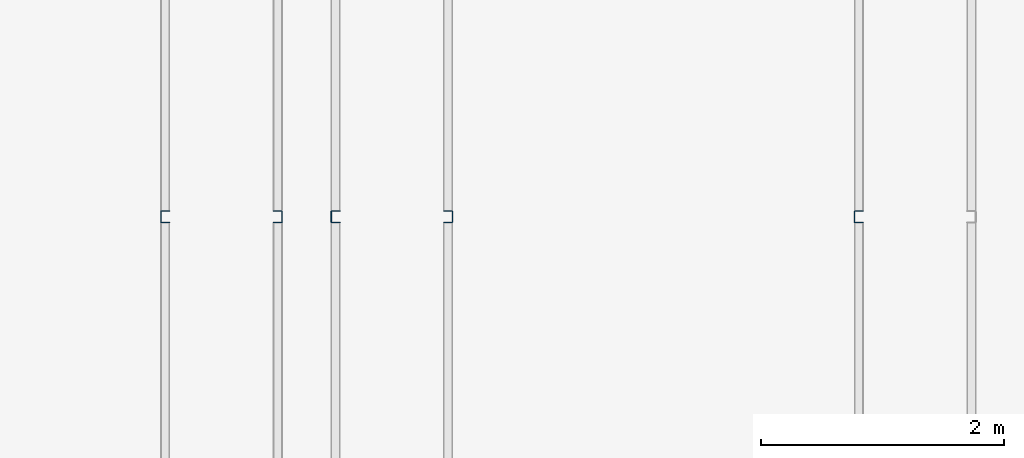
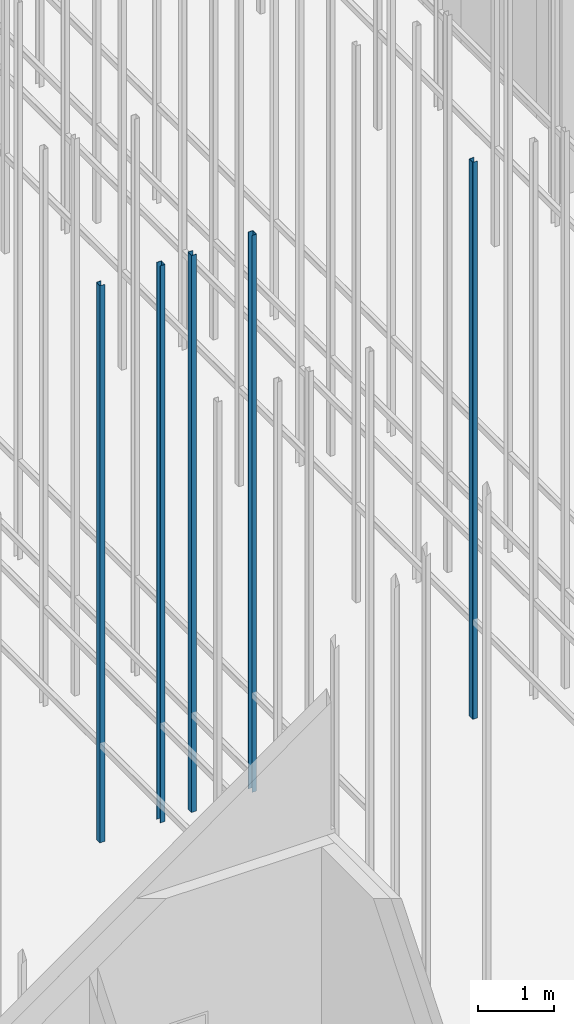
# One storey, part 12 of 302: 5 columns.
"""IFC2X3 building model written with IfcOpenShell, lengths in metres."""

from ifc_helpers import new_model, entity, si_unit, converted_unit, derived_unit, direction, frame, frame_2d, origin, place, context, subcontext, project, spatial, polyline, circle_curve, parameter, trimmed, segment, composite_curve, outline, extrude, source, transform, mapped, material, type_object, type_shapes, element, save


model = new_model("IFC2X3")

# Units and contexts
model_context = context("Model", 3, precision=1e-05, world=origin(), true_north=direction((6.12303176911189e-17, 1.0)))
body_context = subcontext(model_context, "Body", "Model", "MODEL_VIEW")
ifc_project = project(units=[si_unit("LENGTHUNIT", "METRE"), si_unit("AREAUNIT", "SQUARE_METRE"), si_unit("VOLUMEUNIT", "CUBIC_METRE"), converted_unit("PLANEANGLEUNIT", "DEGREE", entity("IfcRatioMeasure", 0.0174532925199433), si_unit("PLANEANGLEUNIT", "RADIAN"), dimensions=[0, 0, 0, 0, 0, 0, 0]), si_unit("MASSUNIT", "GRAM", prefix="KILO"), derived_unit("MASSDENSITYUNIT", [(si_unit("MASSUNIT", "GRAM", prefix="KILO"), 1), (si_unit("LENGTHUNIT", "METRE"), -3)]), derived_unit("MOMENTOFINERTIAUNIT", [(si_unit("LENGTHUNIT", "METRE"), 4)]), si_unit("TIMEUNIT", "SECOND"), si_unit("FREQUENCYUNIT", "HERTZ"), si_unit("THERMODYNAMICTEMPERATUREUNIT", "DEGREE_CELSIUS"), derived_unit("THERMALTRANSMITTANCEUNIT", [(si_unit("MASSUNIT", "GRAM", prefix="KILO"), 1), (si_unit("THERMODYNAMICTEMPERATUREUNIT", "KELVIN"), -1), (si_unit("TIMEUNIT", "SECOND"), -3)]), derived_unit("VOLUMETRICFLOWRATEUNIT", [(si_unit("LENGTHUNIT", "METRE"), 3), (si_unit("TIMEUNIT", "SECOND"), -1)]), si_unit("ELECTRICCURRENTUNIT", "AMPERE"), si_unit("ELECTRICVOLTAGEUNIT", "VOLT"), si_unit("POWERUNIT", "WATT"), si_unit("FORCEUNIT", "NEWTON", prefix="KILO"), si_unit("ILLUMINANCEUNIT", "LUX"), si_unit("LUMINOUSFLUXUNIT", "LUMEN"), si_unit("LUMINOUSINTENSITYUNIT", "CANDELA"), derived_unit("USERDEFINED", [(si_unit("MASSUNIT", "GRAM", prefix="KILO"), -1), (si_unit("LENGTHUNIT", "METRE"), -2), (si_unit("TIMEUNIT", "SECOND"), 3), (si_unit("LUMINOUSFLUXUNIT", "LUMEN"), 1)]), derived_unit("LINEARVELOCITYUNIT", [(si_unit("LENGTHUNIT", "METRE"), 1), (si_unit("TIMEUNIT", "SECOND"), -1)]), si_unit("PRESSUREUNIT", "PASCAL"), derived_unit("USERDEFINED", [(si_unit("LENGTHUNIT", "METRE"), -2), (si_unit("MASSUNIT", "GRAM", prefix="KILO"), 1), (si_unit("TIMEUNIT", "SECOND"), -2)]), derived_unit("LINEARFORCEUNIT", [(si_unit("MASSUNIT", "GRAM", prefix="KILO"), 1), (si_unit("LENGTHUNIT", "METRE"), 1), (si_unit("TIMEUNIT", "SECOND"), -2), (si_unit("LENGTHUNIT", "METRE"), -1)]), derived_unit("PLANARFORCEUNIT", [(si_unit("MASSUNIT", "GRAM", prefix="KILO"), 1), (si_unit("LENGTHUNIT", "METRE"), 1), (si_unit("TIMEUNIT", "SECOND"), -2), (si_unit("LENGTHUNIT", "METRE"), -2)])], contexts=[model_context])

# Site, building, storey
site_placement = place(None, origin())
site = spatial("IfcSite", under=ifc_project, at=site_placement, Name="Default", CompositionType="ELEMENT")
building_placement = place(site_placement, origin())
building = spatial("IfcBuilding", under=site, at=building_placement, CompositionType="ELEMENT")
storey_placement = place(building_placement, frame((0.0, 0.0, -1.3)))
storey = spatial("IfcBuildingStorey", under=building, at=storey_placement, Name="00_EG", CompositionType="ELEMENT", Elevation=-1.3)

# Columns
ifc_material = material(Name="Metall - Baustahl S235")
column_type_1 = type_object("IfcColumnType", Name="Leichter Stahl Schlossschrauben Stütze:C 100", PredefinedType="COLUMN", material=ifc_material)
shared_shape_1 = source(origin(), body_context, "Body", "SweptSolid", [
    extrude(outline(composite_curve([segment(polyline([(-0.0469749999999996, -0.0499999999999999), (0.0214500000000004, -0.0499999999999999)]), True, "CONTINUOUS"), segment(trimmed(circle_curve(frame_2d((0.0214500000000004, -0.0434249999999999), x_axis=(0.0, -1.0)), 0.00657500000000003), [parameter(0.0)], [parameter(89.9999999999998)], True, "PARAMETER"), True, "CONTINUOUS"), segment(polyline([(0.0280250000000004, -0.0434249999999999), (0.0280250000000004, 0.0434250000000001)]), True, "CONTINUOUS"), segment(trimmed(circle_curve(frame_2d((0.0214500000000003, 0.0434250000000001), x_axis=(1.0, 0.0)), 0.0065750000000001), [parameter(0.0)], [parameter(89.9999999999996)], True, "PARAMETER"), True, "CONTINUOUS"), segment(polyline([(0.0214500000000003, 0.0500000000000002), (-0.0469750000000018, 0.0500000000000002)]), True, "CONTINUOUS"), segment(polyline([(-0.0469750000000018, 0.0500000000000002), (-0.0469750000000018, 0.0450000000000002)]), True, "CONTINUOUS"), segment(polyline([(-0.0469750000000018, 0.0450000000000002), (0.0214500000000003, 0.0450000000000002)]), True, "CONTINUOUS"), segment(trimmed(circle_curve(frame_2d((0.0214500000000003, 0.0434249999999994), x_axis=(0.0, 1.0)), 0.00157500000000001), [parameter(269.999999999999)], [parameter(0.0)], True, "PARAMETER"), False, "CONTINUOUS"), segment(polyline([(0.0230250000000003, 0.0434249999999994), (0.0230250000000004, -0.0434249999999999)]), True, "CONTINUOUS"), segment(trimmed(circle_curve(frame_2d((0.0214500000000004, -0.0434249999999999), x_axis=(1.0, 0.0)), 0.00157500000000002), [parameter(270.0)], [parameter(0.0)], True, "PARAMETER"), False, "CONTINUOUS"), segment(polyline([(0.0214500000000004, -0.0449999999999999), (-0.0469749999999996, -0.0449999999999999)]), True, "CONTINUOUS"), segment(polyline([(-0.0469749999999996, -0.0449999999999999), (-0.0469749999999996, -0.0499999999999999)]), True, "CONTINUOUS")], self_intersect=False)), frame((0.0499999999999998, 0.0280250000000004, -0.0300000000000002), z_axis=(0.0, 0.0, 1.0), x_axis=(0.0, -1.0, 0.0)), (0.0, 0.0, 1.0), 9.0),
])
type_shapes(column_type_1, [shared_shape_1])
for number, where, z_axis, x_axis in (
    (1, (-190.790111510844, 30.248088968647, 1.3), (0.0, 0.0, 1.0), (0.0, -1.0, 0.0)),
    (2, (-189.390111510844, 30.248088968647, 1.3), (0.0, 0.0, 1.0), (0.0, -1.0, 0.0)),
    (3, (-185.090111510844, 30.248088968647, 1.3), (0.0, 0.0, 1.0), (0.0, -1.0, 0.0)),
):
    element("IfcColumn", number, at=place(storey_placement, frame(where, z_axis=z_axis, x_axis=x_axis)), inside=storey, type_object=column_type_1, material=ifc_material, Name="Leichter Stahl Schlossschrauben Stütze:C 100", ObjectType="Leichter Stahl Schlossschrauben Stütze:C 100", context=body_context, shape_type="MappedRepresentation", body=[
        mapped(shared_shape_1, transform((0.0, 0.0, 0.0), scale=1.0)),
    ])
column_type_2 = type_object("IfcColumnType", Name="Leichter Stahl Schlossschrauben Stütze:C 100", PredefinedType="COLUMN", material=ifc_material)
shared_shape_2 = source(origin(), body_context, "Body", "SweptSolid", [
    extrude(outline(composite_curve([segment(polyline([(-0.0214500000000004, -0.0499999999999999), (0.0469749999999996, -0.0499999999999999)]), True, "CONTINUOUS"), segment(polyline([(0.0469749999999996, -0.0499999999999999), (0.0469749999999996, -0.0449999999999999)]), True, "CONTINUOUS"), segment(polyline([(0.0469749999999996, -0.0449999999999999), (-0.0214500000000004, -0.045)]), True, "CONTINUOUS"), segment(trimmed(circle_curve(frame_2d((-0.0214500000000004, -0.043425), x_axis=(0.0, -1.0)), 0.00157500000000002), [parameter(270.0)], [parameter(0.0)], True, "PARAMETER"), False, "CONTINUOUS"), segment(polyline([(-0.0230250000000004, -0.0434249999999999), (-0.0230250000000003, 0.0434249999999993)]), True, "CONTINUOUS"), segment(trimmed(circle_curve(frame_2d((-0.0214500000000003, 0.0434249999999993), x_axis=(-1.0, 0.0)), 0.00157500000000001), [parameter(269.999999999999)], [parameter(0.0)], True, "PARAMETER"), False, "CONTINUOUS"), segment(polyline([(-0.0214500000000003, 0.0450000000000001), (0.0469750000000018, 0.0450000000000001)]), True, "CONTINUOUS"), segment(polyline([(0.0469750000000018, 0.0450000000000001), (0.0469750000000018, 0.0500000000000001)]), True, "CONTINUOUS"), segment(polyline([(0.0469750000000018, 0.0500000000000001), (-0.0214500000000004, 0.0500000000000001)]), True, "CONTINUOUS"), segment(trimmed(circle_curve(frame_2d((-0.0214500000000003, 0.043425), x_axis=(0.0, 1.0)), 0.0065750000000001), [parameter(0.0)], [parameter(89.9999999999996)], True, "PARAMETER"), True, "CONTINUOUS"), segment(polyline([(-0.0280250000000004, 0.043425), (-0.0280250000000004, -0.043425)]), True, "CONTINUOUS"), segment(trimmed(circle_curve(frame_2d((-0.0214500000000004, -0.0434249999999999), x_axis=(-1.0, 0.0)), 0.00657500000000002), [parameter(0.0)], [parameter(89.9999999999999)], True, "PARAMETER"), True, "CONTINUOUS")], self_intersect=False)), frame((0.0499999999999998, -0.0280250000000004, -0.0300000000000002), z_axis=(0.0, 0.0, 1.0), x_axis=(0.0, -1.0, 0.0)), (0.0, 0.0, 1.0), 9.0),
])
type_shapes(column_type_2, [shared_shape_2])
for number, where, z_axis, x_axis in (
    (4, (-189.790111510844, 30.248088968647, 1.3), (0.0, 0.0, 1.0), (0.0, -1.0, 0.0)),
    (5, (-188.390111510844, 30.248088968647, 1.3), (0.0, 0.0, 1.0), (0.0, -1.0, 0.0)),
):
    element("IfcColumn", number, at=place(storey_placement, frame(where, z_axis=z_axis, x_axis=x_axis)), inside=storey, type_object=column_type_2, material=ifc_material, Name="Leichter Stahl Schlossschrauben Stütze:C 100", ObjectType="Leichter Stahl Schlossschrauben Stütze:C 100", context=body_context, shape_type="MappedRepresentation", body=[
        mapped(shared_shape_2, transform((0.0, 0.0, 0.0), scale=1.0)),
    ])

save(model, "model.ifc")
